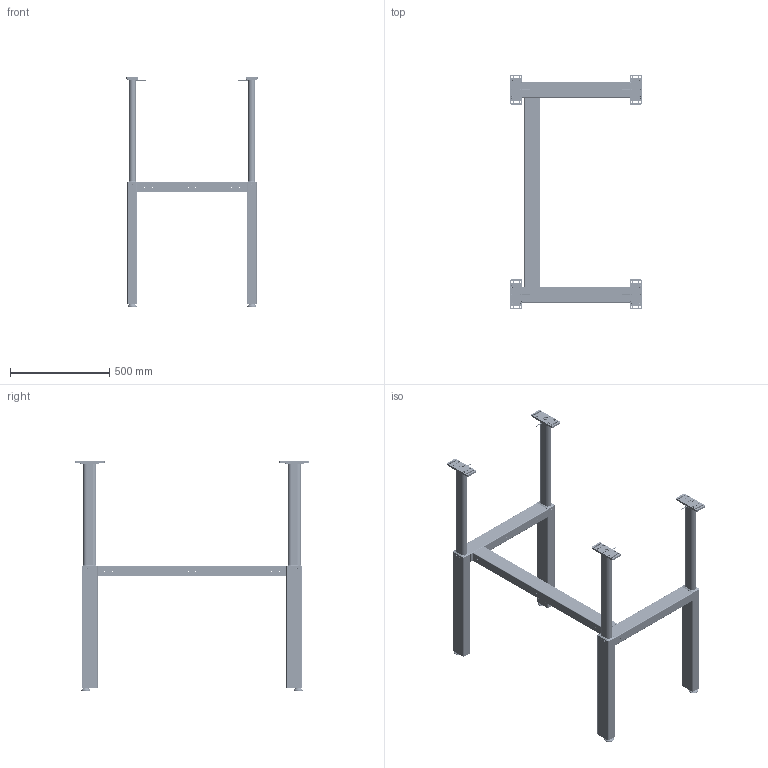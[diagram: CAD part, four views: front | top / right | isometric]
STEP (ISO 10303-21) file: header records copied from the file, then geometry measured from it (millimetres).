
FILE_DESCRIPTION(/* description */ ('Unknown'),/* implementation_level */ '2;1');
FILE_NAME(/* name */ '108.00070_02-Ausgefahren',/* time_stamp */ '2022-02-09T14:33:42+01:00',/* author */ ('Unknown'),/* organization */ ('Unknown'),/* preprocessor_version */ 'ST-DEVELOPER v18.1',/* originating_system */ 'Solid Edge',/* authorisation */ 'Unknown');
FILE_SCHEMA (('AUTOMOTIVE_DESIGN {1 0 10303 214 3 1 1}'));
Length unit declared in the file: millimetre
Products named in the file (43): 108.00070; 306.00090_oa_0; 124.00004; 107.00147_oa_1; 125.00021; 115.00007_oa_2; 125.00033; 125.00022; 127.00038; 127.00034_oa_3; Aussenprofil TA 1450; 127.00032; 127.00035; Innenprofil TA 1450; Abschlussplatte; 127.00048; Schraube 2,9x6,4; 127.00034_2’403_2’488_Kehlnaht 1_oa_4; 113.00002_70mm; 142.00031; 142.00077; 306.00090_oa_5; 107.00147_oa_6; 115.00007_oa_7; 127.00034_oa_8; 127.00034_2’403_2’488_Kehlnaht 1_oa_9; 115.00150; 127.00365; 113.00006; 113.00006-ohne Mutter; Mutter M10; 306.00090_oa_10; 107.00147_oa_11; 115.00007_oa_12; 127.00034_oa_13; 127.00034_2’403_2’488_Kehlnaht 1_oa_14; 115.00152; 127.00367; 306.00090_oa_15; 107.00147_oa_16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
Assembly tree (123 placements, depth 4):
  108.00070
    306.00090_oa_0
      124.00004
      107.00147_oa_1
        125.00021
        115.00007_oa_2
        125.00033
        125.00022
      127.00038
      127.00034_oa_3
        Aussenprofil TA 1450
        127.00032
        127.00035
        Innenprofil TA 1450
        Abschlussplatte
        127.00048
        Schraube 2,9x6,4  x6
        127.00034_2’403_2’488_Kehlnaht 1_oa_4
      113.00002_70mm
      142.00031
      142.00077  x4
    306.00090_oa_5
      124.00004
      107.00147_oa_6
        125.00021
        115.00007_oa_7
        125.00033
        125.00022
      127.00038
      127.00034_oa_8
        Aussenprofil TA 1450
        127.00032
        127.00035
        Innenprofil TA 1450
        Abschlussplatte
        127.00048
        Schraube 2,9x6,4  x6
        127.00034_2’403_2’488_Kehlnaht 1_oa_9
      113.00002_70mm
      142.00031
      142.00077  x4
    115.00150  x2
      127.00365
    113.00006  x4
      113.00006-ohne Mutter
      Mutter M10
    306.00090_oa_10
      124.00004
      107.00147_oa_11
        125.00021
        115.00007_oa_12
        125.00033
        125.00022
      127.00038
      127.00034_oa_13
        Aussenprofil TA 1450
        127.00032
        127.00035
        Innenprofil TA 1450
        Abschlussplatte
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Bounding box: 660 x 1180 x 1153 mm (x, y, z)
Volume: 3560596.8 mm3; surface area: 3307034 mm2
Topology: 119 solids, 119 shells, 4418 faces, 10548 edges, 6392 vertices
Faces by surface type: cylinder 1688, plane 1518, bspline 516, cone 344, torus 304, sphere 48
Full cylindrical faces by diameter (mm): 1.8 x8, 2.2 x4, 2.5 x24, 2.78 x4, 2.9 x24, 3.5 x4, 4 x4, 4.1 x8, 4.2 x4, 4.9 x8, 4.917 x118, 5.8 x32, 6 x16, 6.5 x28, 6.647 x12, 6.8 x24, 6.917 x8, 7 x16, 8 x12, 8.376 x12, 9 x62, 9.5 x4, 10 x20, 12 x4, 12.5 x4, 13 x24, 13.5 x4, 13.9 x8, 15 x4, 19 x4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
Entity records: 36163 total; most frequent: CARTESIAN_POINT 8033, DIRECTION 4999, ORIENTED_EDGE 4430, EDGE_CURVE 2215, AXIS2_PLACEMENT_3D 2021, FACE_BOUND 1615, EDGE_LOOP 1614, VERTEX_POINT 1516
